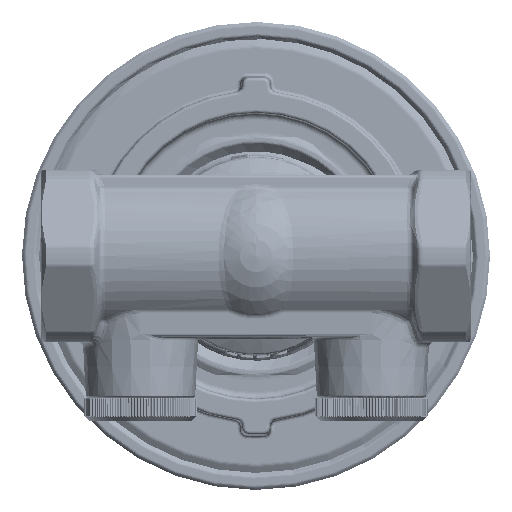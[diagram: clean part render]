
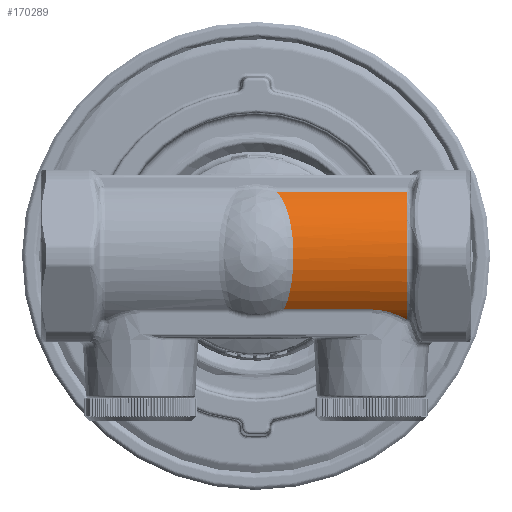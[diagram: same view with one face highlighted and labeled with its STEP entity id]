
A CAD part, front view. The second image highlights one B-rep face of the part: STEP entity #170289.
In plain terms, the highlighted cylindrical face has radius 12.25 mm (diameter 24.5 mm), a partial arc.
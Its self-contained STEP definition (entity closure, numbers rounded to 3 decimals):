
#20007=B_SPLINE_CURVE_WITH_KNOTS('',3,(#393056,#393057,#393058,#393059,
#393060),.UNSPECIFIED.,.F.,.F.,(4,1,4),(-0.605,-0.346,
0.),.UNSPECIFIED.);
#20017=B_SPLINE_CURVE_WITH_KNOTS('',3,(#393435,#393436,#393437,#393438,
#393439,#393440,#393441,#393442),.UNSPECIFIED.,.F.,.F.,(4,1,1,1,1,4),(-2.74,
-2.069,-1.379,-1.034,-0.689,
-0.361),.UNSPECIFIED.);
#20019=B_SPLINE_CURVE_WITH_KNOTS('',3,(#393451,#393452,#393453,#393454,
#393455),.UNSPECIFIED.,.F.,.F.,(4,1,4),(0.,0.306,0.536),
 .UNSPECIFIED.);
#20020=B_SPLINE_CURVE_WITH_KNOTS('',3,(#393459,#393460,#393461,#393462,
#393463),.UNSPECIFIED.,.F.,.F.,(4,1,4),(0.,0.23,0.536),
 .UNSPECIFIED.);
#27634=LINE('',#393067,#35461);
#27638=LINE('',#393466,#35465);
#35461=VECTOR('',#227193,10.);
#35465=VECTOR('',#227249,10.);
#38073=CYLINDRICAL_SURFACE('',#186703,12.25);
#49483=FACE_OUTER_BOUND('',#59453,.T.);
#59453=EDGE_LOOP('',(#155279,#155280,#155281,#155282,#155283,#155284,#155285,
#155286,#155287));
#68298=CIRCLE('',#186704,12.25);
#68299=CIRCLE('',#186705,12.25);
#68300=CIRCLE('',#186706,12.25);
#84018=VERTEX_POINT('',#393030);
#84020=VERTEX_POINT('',#393055);
#84021=VERTEX_POINT('',#393063);
#84042=VERTEX_POINT('',#393434);
#84043=VERTEX_POINT('',#393448);
#84044=VERTEX_POINT('',#393450);
#84045=VERTEX_POINT('',#393456);
#84046=VERTEX_POINT('',#393458);
#84047=VERTEX_POINT('',#393464);
#108120=EDGE_CURVE('',#84018,#84020,#20007,.T.);
#108124=EDGE_CURVE('',#84020,#84021,#27634,.T.);
#108154=EDGE_CURVE('',#84021,#84042,#20017,.T.);
#108156=EDGE_CURVE('',#84043,#84018,#68298,.T.);
#108157=EDGE_CURVE('',#84044,#84043,#20019,.T.);
#108158=EDGE_CURVE('',#84045,#84044,#68299,.T.);
#108159=EDGE_CURVE('',#84046,#84045,#20020,.T.);
#108160=EDGE_CURVE('',#84047,#84046,#68300,.T.);
#108161=EDGE_CURVE('',#84042,#84047,#27638,.T.);
#155279=ORIENTED_EDGE('',*,*,#108124,.F.);
#155280=ORIENTED_EDGE('',*,*,#108120,.F.);
#155281=ORIENTED_EDGE('',*,*,#108156,.F.);
#155282=ORIENTED_EDGE('',*,*,#108157,.F.);
#155283=ORIENTED_EDGE('',*,*,#108158,.F.);
#155284=ORIENTED_EDGE('',*,*,#108159,.F.);
#155285=ORIENTED_EDGE('',*,*,#108160,.F.);
#155286=ORIENTED_EDGE('',*,*,#108161,.F.);
#155287=ORIENTED_EDGE('',*,*,#108154,.F.);
#170289=ADVANCED_FACE('',(#49483),#38073,.T.);
#186703=AXIS2_PLACEMENT_3D('',#393447,#227241,#227242);
#186704=AXIS2_PLACEMENT_3D('',#393449,#227243,#227244);
#186705=AXIS2_PLACEMENT_3D('',#393457,#227245,#227246);
#186706=AXIS2_PLACEMENT_3D('',#393465,#227247,#227248);
#227193=DIRECTION('',(-1.,0.,0.));
#227241=DIRECTION('center_axis',(1.,0.,0.));
#227242=DIRECTION('ref_axis',(0.,-1.,0.007));
#227243=DIRECTION('center_axis',(1.,0.,0.));
#227244=DIRECTION('ref_axis',(0.,-0.999,-0.048));
#227245=DIRECTION('center_axis',(1.,0.,0.));
#227246=DIRECTION('ref_axis',(0.,-0.999,-0.048));
#227247=DIRECTION('center_axis',(1.,0.,0.));
#227248=DIRECTION('ref_axis',(0.,-0.999,-0.048));
#227249=DIRECTION('',(1.,0.,0.));
#393030=CARTESIAN_POINT('',(22.923,-7.614,-9.596));
#393055=CARTESIAN_POINT('',(17.5,-9.195,-8.094));
#393056=CARTESIAN_POINT('Ctrl Pts',(22.923,-7.614,-9.596));
#393057=CARTESIAN_POINT('Ctrl Pts',(22.276,-8.028,
-9.268));
#393058=CARTESIAN_POINT('Ctrl Pts',(20.637,-8.838,
-8.517));
#393059=CARTESIAN_POINT('Ctrl Pts',(18.652,-9.195,
-8.094));
#393060=CARTESIAN_POINT('Ctrl Pts',(17.5,-9.195,-8.094));
#393063=CARTESIAN_POINT('',(4.239,-9.195,-8.094));
#393067=CARTESIAN_POINT('',(0.,-9.195,-8.094));
#393434=CARTESIAN_POINT('',(3.163,-7.483,9.699));
#393435=CARTESIAN_POINT('Ctrl Pts',(4.239,-9.195,
-8.094));
#393436=CARTESIAN_POINT('Ctrl Pts',(4.906,-10.406,
-6.717));
#393437=CARTESIAN_POINT('Ctrl Pts',(5.697,-12.312,
-3.234));
#393438=CARTESIAN_POINT('Ctrl Pts',(5.739,-12.4,
1.816));
#393439=CARTESIAN_POINT('Ctrl Pts',(5.172,-11.055,
5.541));
#393440=CARTESIAN_POINT('Ctrl Pts',(4.421,-9.476,
7.931));
#393441=CARTESIAN_POINT('Ctrl Pts',(3.652,-8.145,9.187));
#393442=CARTESIAN_POINT('Ctrl Pts',(3.163,-7.483,
9.699));
#393447=CARTESIAN_POINT('Origin',(0.,0.,0.));
#393448=CARTESIAN_POINT('',(22.923,-9.161,-8.132));
#393449=CARTESIAN_POINT('Origin',(22.923,0.,
0.));
#393450=CARTESIAN_POINT('',(22.923,-11.623,-3.868));
#393451=CARTESIAN_POINT('Ctrl Pts',(22.923,-11.623,
-3.868));
#393452=CARTESIAN_POINT('Ctrl Pts',(22.923,-11.325,
-4.764));
#393453=CARTESIAN_POINT('Ctrl Pts',(22.975,-10.621,
-6.271));
#393454=CARTESIAN_POINT('Ctrl Pts',(22.923,-9.631,
-7.603));
#393455=CARTESIAN_POINT('Ctrl Pts',(22.923,-9.161,
-8.132));
#393456=CARTESIAN_POINT('',(22.923,-11.623,3.868));
#393457=CARTESIAN_POINT('Origin',(22.923,0.,
0.));
#393458=CARTESIAN_POINT('',(22.923,-9.161,8.132));
#393459=CARTESIAN_POINT('Ctrl Pts',(22.923,-9.161,
8.132));
#393460=CARTESIAN_POINT('Ctrl Pts',(22.923,-9.631,
7.603));
#393461=CARTESIAN_POINT('Ctrl Pts',(22.975,-10.621,
6.271));
#393462=CARTESIAN_POINT('Ctrl Pts',(22.923,-11.325,4.764));
#393463=CARTESIAN_POINT('Ctrl Pts',(22.923,-11.623,
3.868));
#393464=CARTESIAN_POINT('',(22.923,-7.483,9.699));
#393465=CARTESIAN_POINT('Origin',(22.923,0.,
0.));
#393466=CARTESIAN_POINT('',(0.,-7.483,9.699));
